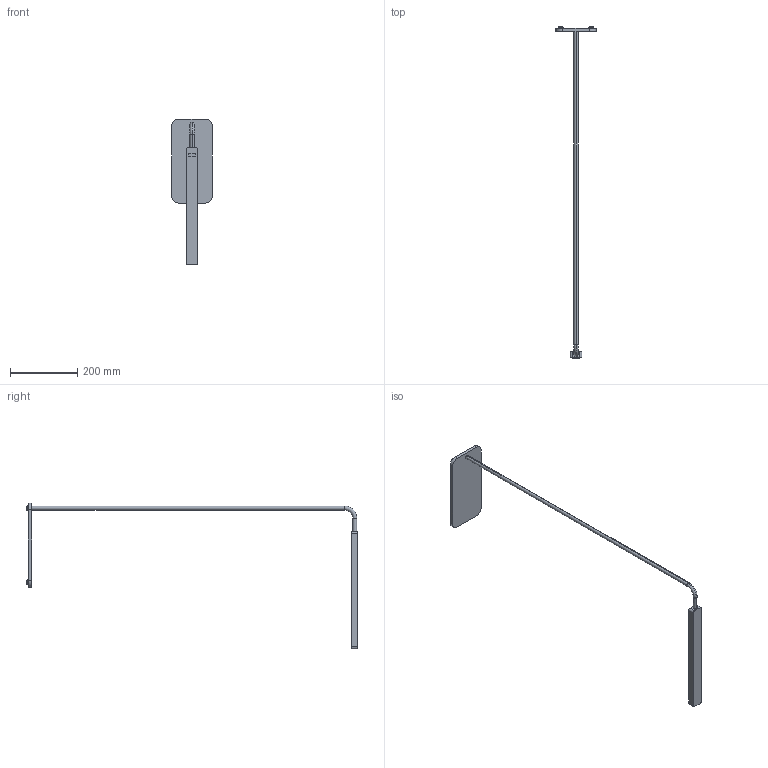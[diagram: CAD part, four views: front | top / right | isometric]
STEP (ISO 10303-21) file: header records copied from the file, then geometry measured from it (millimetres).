
FILE_DESCRIPTION((''),'2;1');
FILE_NAME('HUTAOM-Z_ASM','2026-05-30T',('叶琼'),(''),'PRO/ENGINEER BY PARAMETRIC TECHNOLOGY CORPORATION, 2012300','PRO/ENGINEER BY PARAMETRIC TECHNOLOGY CORPORATION, 2012300','');
FILE_SCHEMA(('CONFIG_CONTROL_DESIGN'));
Length unit declared in the file: millimetre
Products named in the file (10): CHAO; HUTAOM; GAI-Z; TOUJ-D; PCB-395; 7Z; GANYIN; TUOYUAN; DJ; HUTAOM-Z_ASM
Assembly tree (23 placements, depth 2):
  HUTAOM-Z_ASM
    CHAO
    HUTAOM
    GAI-Z
    TOUJ-D  x12
    PCB-395
    7Z
    GANYIN
    TUOYUAN
    DJ  x4
Bounding box: 120 x 986.4 x 434.05 mm (x, y, z)
Volume: 558153.9 mm3; surface area: 246697.7 mm2
Topology: 23 solids, 23 shells, 318 faces, 727 edges, 460 vertices
Faces by surface type: cylinder 134, plane 126, cone 28, revolution 26, torus 4
Entity records: 7125 total; most frequent: DIRECTION 1283, CARTESIAN_POINT 1237, ORIENTED_EDGE 1090, EDGE_CURVE 545, AXIS2_PLACEMENT_3D 484, VERTEX_POINT 353, VECTOR 311, LINE 311
